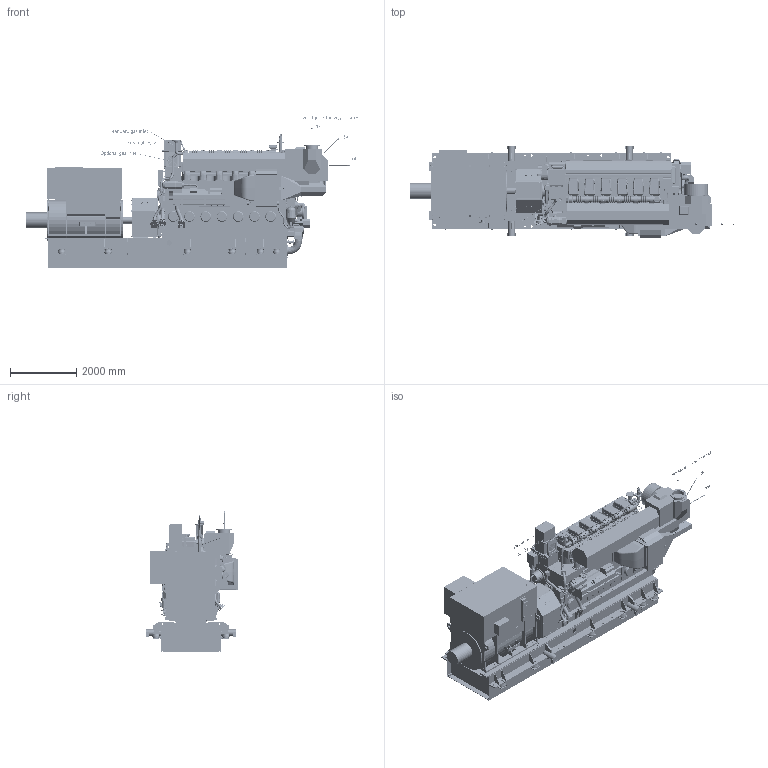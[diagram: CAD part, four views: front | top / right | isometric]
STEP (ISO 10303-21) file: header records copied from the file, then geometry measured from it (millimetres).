
FILE_DESCRIPTION(/* description */ (''),/* implementation_level */ '2;1');
FILE_NAME(/* name */ 'DAAF380642_B.stp',/* time_stamp */ '2021-12-10T09:32:08+02:00',/* author */ (''),/* organization */ (''),/* preprocessor_version */ 'ST-DEVELOPER v16.7',/* originating_system */ 'SIEMENS PLM Software NX 1915',/* authorisation */ '');
FILE_SCHEMA (('AUTOMOTIVE_DESIGN { 1 0 10303 214 3 1 1 1 }'));
Products named in the file (77): PABA065852_-; PABA089633_-; PABA311381_-; PAAF093447_-; PAAF906213_-; PAAF243623_-; PABA135981_-; PAAF909498_-; PAAF909496_-; PAAF675626_-; PAAF270351_-; PAAF906214_-; PABA065520_-; PAAF078708_-; PAAF721110_-; PABA142427_-; PAAF776393_-; PAAF681232_-; PAAF354712_-; PABA086611_-; PAAF683775_-; PABA065492_-; PAAF379162_-; PAAF407516_-; PABA147579_-; PAAF671497_-; PAAF078621_-; PAAF078702_-; PAAF068492_-; PAAF920689_-; PAAF093819_-; PAAF093585_-; PAAF271372_-; PAAF074442_-; PAAF087145_-; PAAF243686_-; PAAF243744_-; PAAF087136_-; PAAF247471_-; PAAF247485_-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
Assembly tree (99 placements, depth 3):
  DAAF380642_B
    PABA319996_-
    PABA319989_-
    PABA237797_A_MODEL
    PAAF264074_-
    PAAF775437_-  x12
    PABA319987_-
      PAAF063630_-
      PABA036848_-
      PAAF238216_-
      PAAF291916_-
      PAAF906204_-
      PAAF063769_-
      PAAF895907_-
      PAAF895909_-
      PAAF906209_-
      PAAF064319_-
      PAAF906211_-
      PAAF074388_-
      PAAF555086_-  x2
      PAAF555085_-  x2
      PAAF243671_-
      PAAF555902_-
      PAAF078074_-
      PAAF247479_-
      PAAF397145_-
      PAAF559689_-
      PAAF078241_-
      PAAF087122_-
      PAAF087114_-
      PAAF087082_-
      PAAF087111_-
      PAAF975683_-
      PAAF975946_-  x5
      PAAF975926_-  x6
      PABA066964_-
      PAAF247485_-
      PAAF247471_-
      PAAF087136_-
      PAAF243744_-
      PAAF243686_-
      PAAF087145_-
      PAAF074442_-
      PAAF271372_-
      PAAF093585_-
      PAAF093819_-
      PAAF920689_-
      PAAF068492_-
      PAAF078702_-
      PAAF078621_-
      PAAF671497_-
      PABA147579_-
      PAAF407516_-
      PAAF379162_-  x2
      PABA065492_-
      PAAF683775_-
      PABA086611_-
      PAAF354712_-
      PAAF681232_-
      PAAF776393_-
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Bounding box: 10029.63 x 2784.51 x 4607.62 mm (x, y, z)
Volume: 25749784245.6 mm3; surface area: 398626645.2 mm2
Topology: 819 solids, 838 shells, 26796 faces, 69893 edges, 45635 vertices
Faces by surface type: plane 14639, cylinder 8489, bspline 1641, extrusion 893, cone 553, torus 522, sphere 56, revolution 3
Full cylindrical faces by diameter (mm): 1 x6, 3 x3, 5 x46, 6 x7, 6.4 x4, 6.8 x152, 7.077 x1, 8 x202, 8.5 x10, 9 x24, 9.7 x1, 10 x154, 10.25 x14, 11 x3, 11.908 x1, 12 x101, 12.3 x1, 13 x2, 13.2 x4, 13.5 x4, 13.8 x148, 14 x396, 14.5 x2, 15 x11, 15.6 x4, 15.7 x4, 16 x17, 16.2 x3, 16.376 x1, 16.7 x1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
Entity records: 981391 total; most frequent: CARTESIAN_POINT 347263, ORIENTED_EDGE 125818, DIRECTION 119909, EDGE_CURVE 62909, VERTEX_POINT 43014, AXIS2_PLACEMENT_3D 41082, VECTOR 37742, LINE 36849
